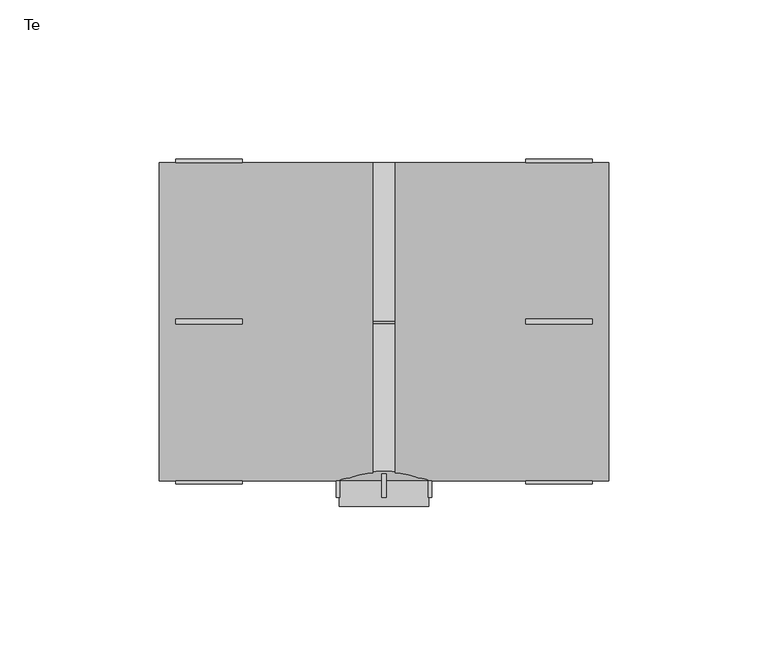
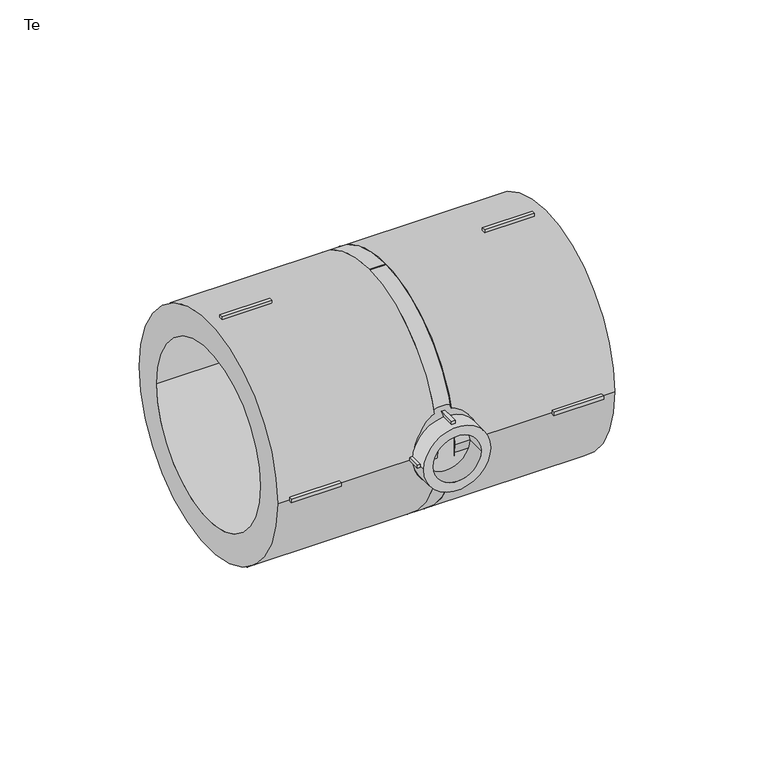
"""IFC4 building model written with IfcOpenShell, lengths in millimetres: pipe fitting geometry, EGB_VASEN_ PPR_Te WXR300_Te reducida WXR310 : Te."""

from ifc_helpers import new_model, si_unit, point, frame, origin, origin_2d, place, context, project, spatial, polyline, circle_curve, trimmed, segment, composite_curve, outline, extrude, source, transform, mapped, element, save
from ifc_brep_helpers import plane_surface, revolved_surface, advanced_brep


def te_1514e7d2(model_context):
    return source(origin(), model_context, "Body", "SolidModel", [
        extrude(outline(polyline([(-0.75, -44.0), (0.75, -44.0), (0.75, -55.2), (-0.75, -55.2), (-0.75, -44.0)])), frame((0.0, 0.0, 13.0), z_axis=(0.0, 0.0, 1.0), x_axis=(1.0, 0.0, 0.0)), (0.0, 0.0, 1.0), 2.0),
        extrude(outline(polyline([(-0.75, -44.0), (0.75, -44.0), (0.75, -55.2), (-0.75, -55.2), (-0.75, -44.0)])), frame((0.0, 0.0, -15.0), z_axis=(0.0, 0.0, 1.0), x_axis=(1.0, 0.0, 0.0)), (0.0, 0.0, 1.0), 2.0),
        extrude(outline(polyline([(13.0, -44.0), (15.0, -44.0), (15.0, -55.2), (13.0, -55.2), (13.0, -44.0)])), frame((0.0, 0.0, -0.75), z_axis=(0.0, 0.0, 1.0), x_axis=(1.0, 0.0, 0.0)), (0.0, 0.0, 1.0), 1.5),
        extrude(outline(polyline([(-15.0, -44.0), (-13.0, -44.0), (-13.0, -55.2), (-15.0, -55.2), (-15.0, -44.0)])), frame((0.0, 0.0, -0.75), z_axis=(0.0, 0.0, 1.0), x_axis=(1.0, 0.0, 0.0)), (0.0, 0.0, 1.0), 1.5),
        extrude(outline(polyline([(44.5, -0.75), (44.5, 0.75), (65.3, 0.75), (65.3, -0.75), (44.5, -0.75)])), frame((0.0, 0.0, 49.0), z_axis=(0.0, 0.0, 1.0), x_axis=(1.0, 0.0, 0.0)), (0.0, 0.0, 1.0), 2.0),
        extrude(outline(polyline([(44.5, -0.75), (44.5, 0.75), (65.3, 0.75), (65.3, -0.75), (44.5, -0.75)])), frame((0.0, 0.0, -51.0), z_axis=(0.0, 0.0, 1.0), x_axis=(1.0, 0.0, 0.0)), (0.0, 0.0, 1.0), 2.0),
        extrude(outline(polyline([(44.5, 49.0), (44.5, 51.0), (65.3, 51.0), (65.3, 49.0), (44.5, 49.0)])), frame((0.0, 0.0, -0.75), z_axis=(0.0, 0.0, 1.0), x_axis=(1.0, 0.0, 0.0)), (0.0, 0.0, 1.0), 1.5),
        extrude(outline(polyline([(44.5, -51.0), (44.5, -49.0), (65.3, -49.0), (65.3, -51.0), (44.5, -51.0)])), frame((0.0, 0.0, -0.75), z_axis=(0.0, 0.0, 1.0), x_axis=(1.0, 0.0, 0.0)), (0.0, 0.0, 1.0), 1.5),
        extrude(outline(polyline([(-44.5, 0.75), (-44.5, -0.75), (-65.3, -0.75), (-65.3, 0.75), (-44.5, 0.75)])), frame((0.0, 0.0, 49.0), z_axis=(0.0, 0.0, 1.0), x_axis=(1.0, 0.0, 0.0)), (0.0, 0.0, 1.0), 2.0),
        extrude(outline(polyline([(-44.5, 0.75), (-44.5, -0.75), (-65.3, -0.75), (-65.3, 0.75), (-44.5, 0.75)])), frame((0.0, 0.0, -51.0), z_axis=(0.0, 0.0, 1.0), x_axis=(1.0, 0.0, 0.0)), (0.0, 0.0, 1.0), 2.0),
        extrude(outline(polyline([(-44.5, 51.0), (-44.5, 49.0), (-65.3, 49.0), (-65.3, 51.0), (-44.5, 51.0)])), frame((0.0, 0.0, -0.75), z_axis=(0.0, 0.0, 1.0), x_axis=(1.0, 0.0, 0.0)), (0.0, 0.0, 1.0), 1.5),
        extrude(outline(polyline([(-44.5, -49.0), (-44.5, -51.0), (-65.3, -51.0), (-65.3, -49.0), (-44.5, -49.0)])), frame((0.0, 0.0, -0.75), z_axis=(0.0, 0.0, 1.0), x_axis=(1.0, 0.0, 0.0)), (0.0, 0.0, 1.0), 1.5),
        extrude(outline(composite_curve([segment(trimmed(circle_curve(origin_2d(), 14.0), [point((0.0, 14.0))], [point((0.0, -14.0))], False, "CARTESIAN"), True, "CONTINUOUS"), segment(trimmed(circle_curve(origin_2d(), 14.0), [point((0.0, -14.0))], [point((0.0, 14.0))], False, "CARTESIAN"), True, "CONTINUOUS")], self_intersect=False), holes=[composite_curve([segment(trimmed(circle_curve(origin_2d(), 10.0), [point((0.0, 10.0))], [point((0.0, -10.0))], True, "CARTESIAN"), True, "CONTINUOUS"), segment(trimmed(circle_curve(origin_2d(), 10.0), [point((0.0, -10.0))], [point((0.0, 10.0))], True, "CARTESIAN"), True, "CONTINUOUS")], self_intersect=False)]), frame((0.0, -58.0, 0.0), z_axis=(0.0, 1.0, 0.0), x_axis=(0.0, 0.0, 1.0)), (0.0, 0.0, 1.0), 8.0),
        extrude(outline(composite_curve([segment(trimmed(circle_curve(origin_2d(), 50.0), [point((-50.0, 0.0))], [point((50.0, 0.0))], False, "CARTESIAN"), True, "CONTINUOUS"), segment(trimmed(circle_curve(origin_2d(), 50.0), [point((50.0, 0.0))], [point((-50.0, 0.0))], False, "CARTESIAN"), True, "CONTINUOUS")], self_intersect=False), holes=[composite_curve([segment(trimmed(circle_curve(origin_2d(), 37.5), [point((-37.5, 0.0))], [point((37.5, 0.0))], True, "CARTESIAN"), True, "CONTINUOUS"), segment(trimmed(circle_curve(origin_2d(), 37.5), [point((37.5, 0.0))], [point((-37.5, 0.0))], True, "CARTESIAN"), True, "CONTINUOUS")], self_intersect=False)]), frame((3.52, 0.0, 0.0), z_axis=(1.0, 0.0, 0.0), x_axis=(0.0, 1.0, 0.0)), (0.0, 0.0, 1.0), 66.98),
        extrude(outline(composite_curve([segment(trimmed(circle_curve(origin_2d(), 50.0), [point((-50.0, 0.0))], [point((50.0, 0.0))], False, "CARTESIAN"), True, "CONTINUOUS"), segment(trimmed(circle_curve(origin_2d(), 50.0), [point((50.0, 0.0))], [point((-50.0, 0.0))], False, "CARTESIAN"), True, "CONTINUOUS")], self_intersect=False), holes=[composite_curve([segment(trimmed(circle_curve(origin_2d(), 37.5), [point((-37.5, 0.0))], [point((37.5, 0.0))], True, "CARTESIAN"), True, "CONTINUOUS"), segment(trimmed(circle_curve(origin_2d(), 37.5), [point((37.5, 0.0))], [point((-37.5, 0.0))], True, "CARTESIAN"), True, "CONTINUOUS")], self_intersect=False)]), frame((-70.5, 0.0, 0.0), z_axis=(1.0, 0.0, 0.0), x_axis=(0.0, 1.0, 0.0)), (0.0, 0.0, 1.0), 66.98),
        advanced_brep(
        [(50.0, 0.0, 0.0), (-50.0, 0.0, 0.0), (14.0, -50.0, 0.0), (-14.0, -50.0, 0.0)],
        [
            (0, 1, circle_curve(frame((0.0, 0.0, 0.0), z_axis=(0.0, 1.0, 0.0), x_axis=(1.0, 0.0, 0.0)), 50.0)),
            (1, 0, circle_curve(frame((0.0, 0.0, 0.0), z_axis=(0.0, 1.0, 0.0), x_axis=(-1.0, 0.0, 0.0)), 50.0)),
            (2, 3, circle_curve(frame((0.0, -50.0, 0.0), z_axis=(0.0, -1.0, 0.0), x_axis=(-1.0, 0.0, 0.0)), 14.0)),
            (3, 2, circle_curve(frame((0.0, -50.0, 0.0), z_axis=(0.0, -1.0, 0.0), x_axis=(1.0, 0.0, 0.0)), 14.0)),
            (3, 1),
            (0, 2),
        ],
        [
            plane_surface(frame((0.0, 0.0, 0.0), z_axis=(0.0, 1.0, 0.0), x_axis=(0.0, 0.0, -1.0))),
            plane_surface(frame((0.0, -50.0, 0.0), z_axis=(0.0, -1.0, 0.0), x_axis=(0.0, 0.0, -1.0))),
            revolved_surface(polyline([(-13.999999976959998, -50.0, 0.0), (-50.0, 0.0, 0.0)]), (0.0, -69.4444444, 0.0), (0.0, 1.0, 0.0)),
            revolved_surface(polyline([(13.999999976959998, -50.0, 0.0), (50.0, 0.0, 0.0)]), (0.0, -69.4444444, 0.0), (0.0, 1.0, 0.0)),
        ],
        [
            (0, [[1, 2]]),
            (1, [[3, 4]]),
            (2, [[-4, 5, -1, 6]]),
            (3, [[-3, -6, -2, -5]]),
        ],
    ),
        extrude(outline(composite_curve([segment(trimmed(circle_curve(origin_2d(), 50.0), [point((-50.0, 0.0))], [point((50.0, 0.0))], False, "CARTESIAN"), True, "CONTINUOUS"), segment(trimmed(circle_curve(origin_2d(), 50.0), [point((50.0, 0.0))], [point((-50.0, 0.0))], False, "CARTESIAN"), True, "CONTINUOUS")], self_intersect=False)), frame((-3.52, 0.0, 0.0), z_axis=(1.0, 0.0, 0.0), x_axis=(0.0, 1.0, 0.0)), (0.0, 0.0, 1.0), 7.04),
    ])


if __name__ == "__main__":
    model = new_model("IFC4")
    model_context = context("Model", 3, world=origin())
    ifc_project = project(units=[si_unit("LENGTHUNIT", "METRE", prefix="MILLI")], contexts=[model_context])
    site = spatial("IfcSite", under=ifc_project)
    building = spatial("IfcBuilding", under=site)
    placement = place(None, origin())
    te_shape = te_1514e7d2(model_context)
    element("IfcPipeFitting", 1, ObjectType="EGB_VASEN_ PPR_Te WXR300_Te reducida WXR310 : Te", at=placement, inside=building, context=model_context, shape_type="MappedRepresentation", body=[
        mapped(te_shape, transform((0.0, 0.0, 0.0), x_axis=(1.0, 0.0, 0.0), y_axis=(0.0, 1.0, 0.0), z_axis=(0.0, 0.0, 1.0))),
    ])
    save(model, "model.ifc")
